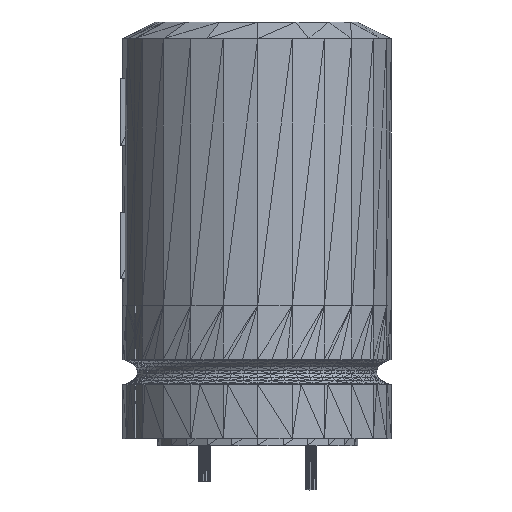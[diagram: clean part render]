
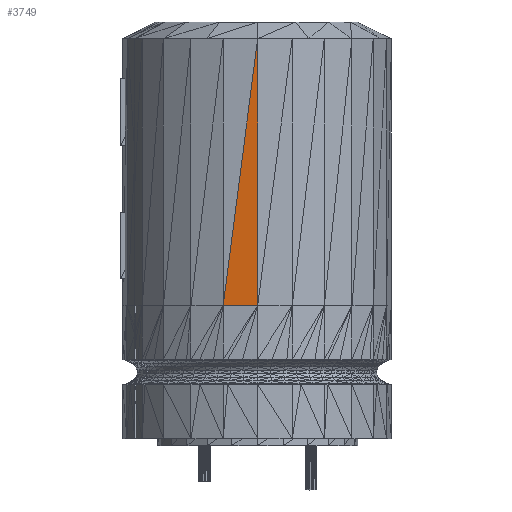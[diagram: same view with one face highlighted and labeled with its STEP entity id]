
A CAD part, front view. The second image highlights one B-rep face of the part: STEP entity #3749.
In plain terms, the highlighted planar face has unit normal (-0.131, -0.991, 0).
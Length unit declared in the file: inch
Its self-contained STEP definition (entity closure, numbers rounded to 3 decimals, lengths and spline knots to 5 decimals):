
#2965=CARTESIAN_POINT('',(0.,-0.37523,1.14367));
#2966=VERTEX_POINT('',#2965);
#3693=CARTESIAN_POINT('',(0.,-0.37508,0.39367));
#3694=VERTEX_POINT('',#3693);
#3717=CARTESIAN_POINT('',(0.,-0.37508,0.39367));
#3718=DIRECTION('',(0.,0.,1.));
#3719=VECTOR('',#3718,0.75);
#3720=LINE('',#3717,#3719);
#3721=EDGE_CURVE('',#3694,#2966,#3720,.T.);
#3727=CARTESIAN_POINT('',(0.,-0.37523,1.14367));
#3728=DIRECTION('',(0.131,0.991,0.));
#3729=DIRECTION('',(0.991,-0.131,0.));
#3730=AXIS2_PLACEMENT_3D('',#3727,#3728,#3729);
#3731=PLANE('',#3730);
#3732=CARTESIAN_POINT('',(-0.09706,-0.3623,0.39368));
#3733=VERTEX_POINT('',#3732);
#3734=CARTESIAN_POINT('',(-0.09706,-0.3623,0.39368));
#3735=DIRECTION('',(0.128,-0.017,0.992));
#3736=VECTOR('',#3735,0.75636);
#3737=LINE('',#3734,#3736);
#3738=EDGE_CURVE('',#3733,#2966,#3737,.T.);
#3739=ORIENTED_EDGE('',*,*,#3738,.F.);
#3740=CARTESIAN_POINT('',(0.,-0.37508,0.39367));
#3741=DIRECTION('',(-0.991,0.131,0.));
#3742=VECTOR('',#3741,0.0979);
#3743=LINE('',#3740,#3742);
#3744=EDGE_CURVE('',#3694,#3733,#3743,.T.);
#3745=ORIENTED_EDGE('',*,*,#3744,.F.);
#3746=ORIENTED_EDGE('',*,*,#3721,.T.);
#3747=EDGE_LOOP('',(#3739,#3745,#3746));
#3748=FACE_BOUND('',#3747,.T.);
#3749=ADVANCED_FACE('',(#3748),#3731,.F.);
